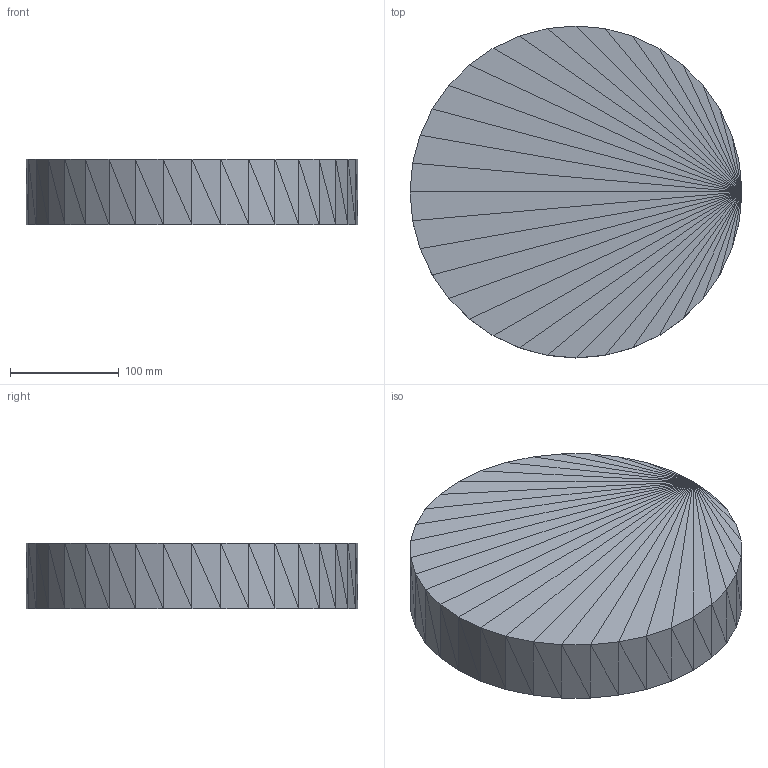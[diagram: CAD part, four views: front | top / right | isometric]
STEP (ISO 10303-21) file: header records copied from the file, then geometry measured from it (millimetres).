
FILE_DESCRIPTION(('ISINAC STEP AP214'),'2;1');
FILE_NAME('ISINAC_CIR.305_60mm_ADHESIVO','2026-05-03T10:49:19',('ISINAC'),('www.isinac.com'),'ISINAC BIM Generator 1.0','','');
FILE_SCHEMA(('AUTOMOTIVE_DESIGN'));
Length unit declared in the file: millimetre
Products named in the file (1): ISINAC_CIR.305_60mm_ADHESIVO
Bounding box: 305 x 305 x 60 mm (x, y, z)
Surface area: 202800.8 mm2 (no closed solid volume)
Topology: 0 solids, 140 shells, 140 faces, 420 edges, 420 vertices
Faces by surface type: plane 140
Entity records: 1553 total; most frequent: CARTESIAN_POINT 560, DIRECTION 280, POLY_LOOP 140, FACE_OUTER_BOUND 140, AXIS2_PLACEMENT_3D 140, PLANE 140, FACE_SURFACE 140, CLOSED_SHELL 1
